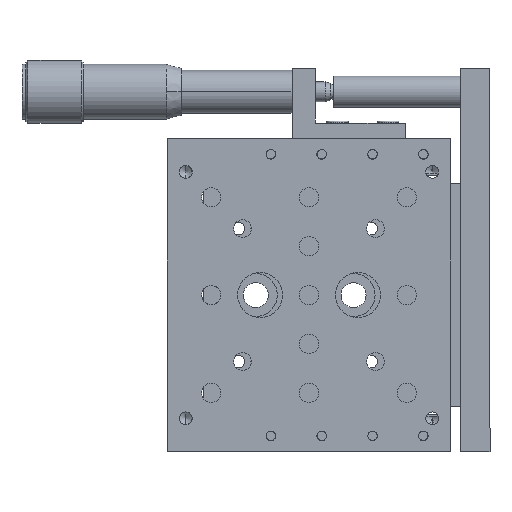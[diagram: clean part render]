
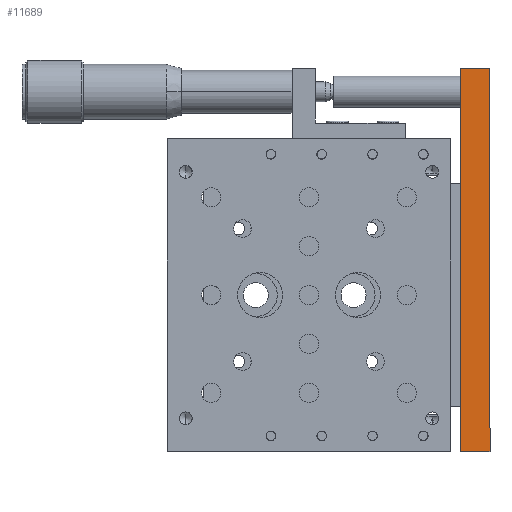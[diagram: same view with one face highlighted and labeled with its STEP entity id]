
A CAD part, front view. The second image highlights one B-rep face of the part: STEP entity #11689.
In plain terms, the highlighted planar face has unit normal (0, -1, 0).
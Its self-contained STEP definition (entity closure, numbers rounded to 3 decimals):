
#10440 = VERTEX_POINT ( 'NONE', #22951 ) ;
#10447 = VERTEX_POINT ( 'NONE', #22944 ) ;
#10469 = EDGE_CURVE ( 'NONE', #10440, #10447, #22984, .T. ) ;
#11629 = EDGE_CURVE ( 'NONE', #11630, #10440, #25606, .T. ) ;
#11630 = VERTEX_POINT ( 'NONE', #25602 ) ;
#11634 = EDGE_LOOP ( 'NONE', ( #11690, #11691, #11694, #11696 ) ) ;
#11689 = ADVANCED_FACE ( 'NONE', ( #25723 ), #25722, .T. ) ;
#11690 = ORIENTED_EDGE ( 'NONE', *, *, #10469, .T. ) ;
#11691 = ORIENTED_EDGE ( 'NONE', *, *, #11692, .F. ) ;
#11692 = EDGE_CURVE ( 'NONE', #11693, #10447, #25717, .T. ) ;
#11693 = VERTEX_POINT ( 'NONE', #25713 ) ;
#11694 = ORIENTED_EDGE ( 'NONE', *, *, #11695, .F. ) ;
#11695 = EDGE_CURVE ( 'NONE', #11630, #11693, #25712, .T. ) ;
#11696 = ORIENTED_EDGE ( 'NONE', *, *, #11629, .T. ) ;
#22944 = CARTESIAN_POINT ( 'NONE',  ( 82.54, -1.092, 97.997 ) ) ;
#22951 = CARTESIAN_POINT ( 'NONE',  ( 82.54, -1.107, -0.003 ) ) ;
#22981 = DIRECTION ( 'NONE',  ( 0., 0., 1. ) ) ;
#22982 = VECTOR ( 'NONE', #22981, 1000. ) ;
#22983 = CARTESIAN_POINT ( 'NONE',  ( 82.54, -1.092, 97.997 ) ) ;
#22984 = LINE ( 'NONE', #22983, #22982 ) ;
#25602 = CARTESIAN_POINT ( 'NONE',  ( 75.04, -1.107, -0.003 ) ) ;
#25603 = DIRECTION ( 'NONE',  ( 1., 0., 0. ) ) ;
#25604 = VECTOR ( 'NONE', #25603, 1000. ) ;
#25605 = CARTESIAN_POINT ( 'NONE',  ( 82.54, -1.107, -0.003 ) ) ;
#25606 = LINE ( 'NONE', #25605, #25604 ) ;
#25709 = DIRECTION ( 'NONE',  ( 0., 0., 1. ) ) ;
#25710 = VECTOR ( 'NONE', #25709, 1000. ) ;
#25711 = CARTESIAN_POINT ( 'NONE',  ( 75.04, -1.107, -0.003 ) ) ;
#25712 = LINE ( 'NONE', #25711, #25710 ) ;
#25713 = CARTESIAN_POINT ( 'NONE',  ( 75.04, -1.092, 97.997 ) ) ;
#25714 = DIRECTION ( 'NONE',  ( 1., 0., 0. ) ) ;
#25715 = VECTOR ( 'NONE', #25714, 1000. ) ;
#25716 = CARTESIAN_POINT ( 'NONE',  ( 82.54, -1.092, 97.997 ) ) ;
#25717 = LINE ( 'NONE', #25716, #25715 ) ;
#25718 = DIRECTION ( 'NONE',  ( 0., 0., -1. ) ) ;
#25719 = DIRECTION ( 'NONE',  ( 0., -1., 0. ) ) ;
#25720 = CARTESIAN_POINT ( 'NONE',  ( 82.54, -1.092, 97.997 ) ) ;
#25721 = AXIS2_PLACEMENT_3D ( 'NONE', #25720, #25719, #25718 ) ;
#25722 = PLANE ( 'NONE',  #25721 ) ;
#25723 = FACE_OUTER_BOUND ( 'NONE', #11634, .T. ) ;
